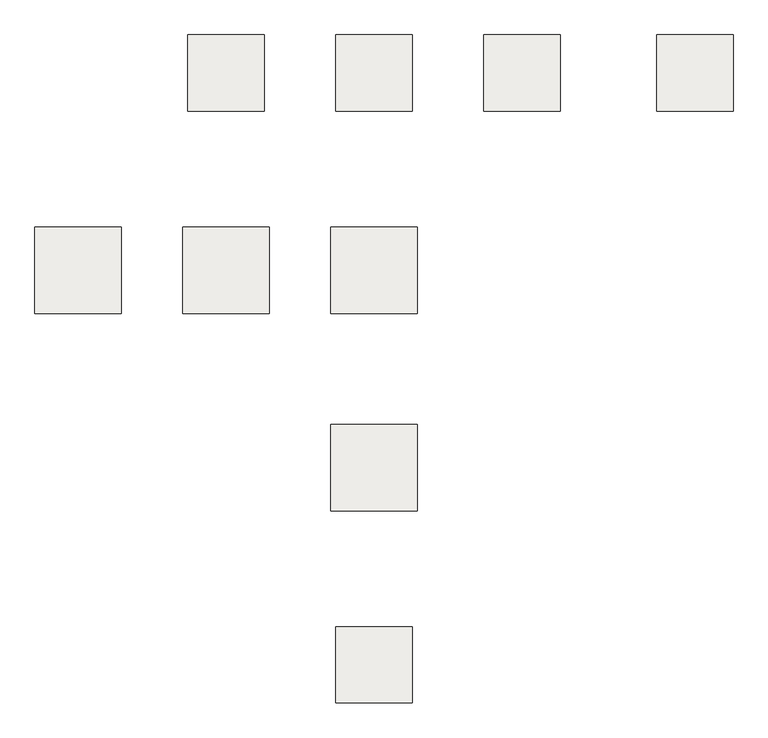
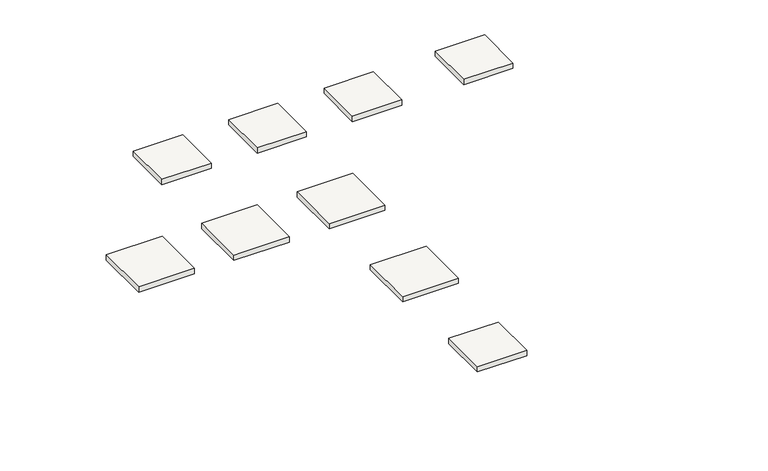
"""IFC4 building model written with IfcOpenShell, lengths in millimetres: slab geometry, ラップルコンクリート_基礎下端-1750 : ラップルコンクリート."""

from ifc_helpers import new_model, si_unit, frame, origin, place, context, project, spatial, polyline, outline, extrude, source, transform, mapped, element, save


def slab_3e6c1c75(model_context):
    return source(origin(), model_context, "Body", "SweptSolid", [
        extrude(outline(polyline([(14550.0, 25550.0), (14550.0, 22450.0), (11450.0, 22450.0), (11450.0, 25550.0), (14550.0, 25550.0)])), frame((0.0, 0.0, -2500.0), z_axis=(0.0, 0.0, 1.0), x_axis=(1.0, 0.0, 0.0)), (0.0, 0.0, 1.0), 350.0),
        extrude(outline(polyline([(20550.0, 25550.0), (20550.0, 22450.0), (17450.0, 22450.0), (17450.0, 25550.0), (20550.0, 25550.0)])), frame((0.0, 0.0, -2500.0), z_axis=(0.0, 0.0, 1.0), x_axis=(1.0, 0.0, 0.0)), (0.0, 0.0, 1.0), 350.0),
        extrude(outline(polyline([(26550.0, 25550.0), (26550.0, 22450.0), (23450.0, 22450.0), (23450.0, 25550.0), (26550.0, 25550.0)])), frame((0.0, 0.0, -2500.0), z_axis=(0.0, 0.0, 1.0), x_axis=(1.0, 0.0, 0.0)), (0.0, 0.0, 1.0), 350.0),
        extrude(outline(polyline([(5250.0, 17750.0), (8750.0, 17750.0), (8750.0, 14250.0), (5250.0, 14250.0), (5250.0, 17750.0)])), frame((0.0, 0.0, -2500.0), z_axis=(0.0, 0.0, 1.0), x_axis=(1.0, 0.0, 0.0)), (0.0, 0.0, 1.0), 350.0),
        extrude(outline(polyline([(11250.0, 17750.0), (14750.0, 17750.0), (14750.0, 14250.0), (11250.0, 14250.0), (11250.0, 17750.0)])), frame((0.0, 0.0, -2500.0), z_axis=(0.0, 0.0, 1.0), x_axis=(1.0, 0.0, 0.0)), (0.0, 0.0, 1.0), 350.0),
        extrude(outline(polyline([(17250.0, 17750.0), (20750.0, 17750.0), (20750.0, 14250.0), (17250.0, 14250.0), (17250.0, 17750.0)])), frame((0.0, 0.0, -2500.0), z_axis=(0.0, 0.0, 1.0), x_axis=(1.0, 0.0, 0.0)), (0.0, 0.0, 1.0), 350.0),
        extrude(outline(polyline([(17250.0, 9750.0), (20750.0, 9750.0), (20750.0, 6250.0), (17250.0, 6250.0), (17250.0, 9750.0)])), frame((0.0, 0.0, -2500.0), z_axis=(0.0, 0.0, 1.0), x_axis=(1.0, 0.0, 0.0)), (0.0, 0.0, 1.0), 350.0),
        extrude(outline(polyline([(17450.0, 1550.0), (20550.0, 1550.0), (20550.0, -1550.0), (17450.0, -1550.0), (17450.0, 1550.0)])), frame((0.0, 0.0, -2500.0), z_axis=(0.0, 0.0, 1.0), x_axis=(1.0, 0.0, 0.0)), (0.0, 0.0, 1.0), 350.0),
        extrude(outline(polyline([(33550.0, 25550.0), (33550.0, 22450.0), (30450.0, 22450.0), (30450.0, 25550.0), (33550.0, 25550.0)])), frame((0.0, 0.0, -2500.0), z_axis=(0.0, 0.0, 1.0), x_axis=(1.0, 0.0, 0.0)), (0.0, 0.0, 1.0), 350.0),
    ])


if __name__ == "__main__":
    model = new_model("IFC4")
    model_context = context("Model", 3, world=origin())
    ifc_project = project(units=[si_unit("LENGTHUNIT", "METRE", prefix="MILLI")], contexts=[model_context])
    site = spatial("IfcSite", under=ifc_project)
    building = spatial("IfcBuilding", under=site)
    placement = place(None, origin())
    slab_shape = slab_3e6c1c75(model_context)
    element("IfcSlab", 1, ObjectType="ラップルコンクリート_基礎下端-1750 : ラップルコンクリート", at=placement, inside=building, context=model_context, shape_type="MappedRepresentation", body=[
        mapped(slab_shape, transform((0.0, 0.0, 0.0), x_axis=(1.0, 0.0, 0.0), y_axis=(0.0, 1.0, 0.0), z_axis=(0.0, 0.0, 1.0))),
    ])
    save(model, "model.ifc")
